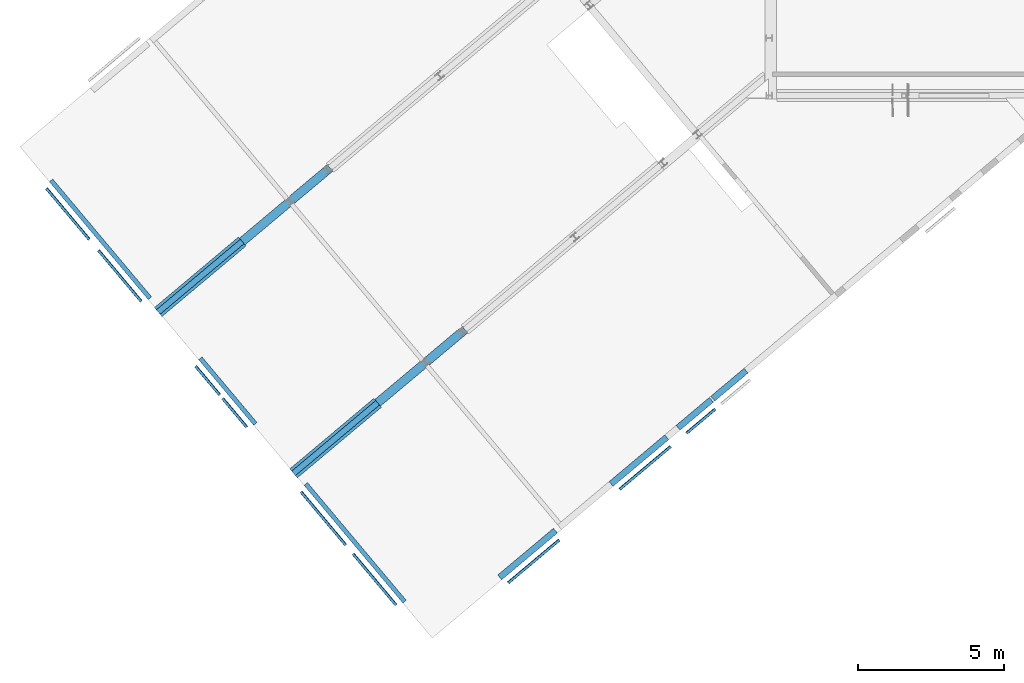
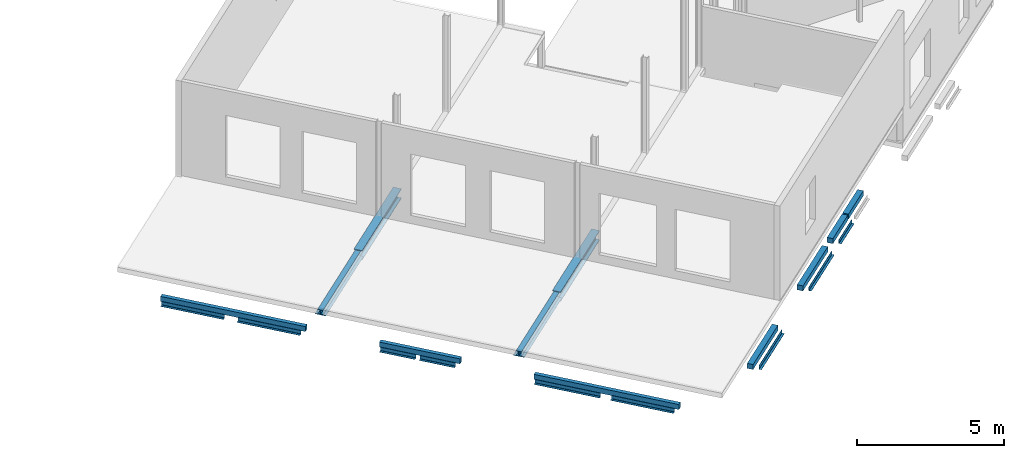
# One storey, part 4 of 16: 20 beams.
"""IFC2X3 building model written with IfcOpenShell, lengths in millimetres."""

from ifc_helpers import new_model, entity, si_unit, converted_unit, derived_unit, direction, frame, frame_2d, origin, origin_2d_with_axis, place, context, subcontext, project, spatial, polyline, circle_curve, parameter, trimmed, segment, composite_curve, rectangle, i_section, outline, extrude, source, transform, mapped, material, material_list, type_object, type_shapes, element, save


model = new_model("IFC2X3")

# Units and contexts
model_context = context("Model", 3, precision=0.01, world=origin(), true_north=direction((6.12303176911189e-17, 1.0)))
body_context = subcontext(model_context, "Body", "Model", "MODEL_VIEW")
ifc_project = project(units=[si_unit("LENGTHUNIT", "METRE", prefix="MILLI"), si_unit("AREAUNIT", "SQUARE_METRE"), si_unit("VOLUMEUNIT", "CUBIC_METRE"), converted_unit("PLANEANGLEUNIT", "DEGREE", entity("IfcRatioMeasure", 0.0174532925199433), si_unit("PLANEANGLEUNIT", "RADIAN"), dimensions=[0, 0, 0, 0, 0, 0, 0]), si_unit("MASSUNIT", "GRAM", prefix="KILO"), derived_unit("MASSDENSITYUNIT", [(si_unit("MASSUNIT", "GRAM", prefix="KILO"), 1), (si_unit("LENGTHUNIT", "METRE"), -3)]), derived_unit("MOMENTOFINERTIAUNIT", [(si_unit("LENGTHUNIT", "METRE"), 4)]), si_unit("TIMEUNIT", "SECOND"), si_unit("FREQUENCYUNIT", "HERTZ"), si_unit("THERMODYNAMICTEMPERATUREUNIT", "DEGREE_CELSIUS"), derived_unit("THERMALTRANSMITTANCEUNIT", [(si_unit("MASSUNIT", "GRAM", prefix="KILO"), 1), (si_unit("THERMODYNAMICTEMPERATUREUNIT", "KELVIN"), -1), (si_unit("TIMEUNIT", "SECOND"), -3)]), derived_unit("VOLUMETRICFLOWRATEUNIT", [(si_unit("LENGTHUNIT", "METRE"), 3), (si_unit("TIMEUNIT", "SECOND"), -1)]), si_unit("ELECTRICCURRENTUNIT", "AMPERE"), si_unit("ELECTRICVOLTAGEUNIT", "VOLT"), si_unit("POWERUNIT", "WATT"), si_unit("FORCEUNIT", "NEWTON", prefix="KILO"), si_unit("ILLUMINANCEUNIT", "LUX"), si_unit("LUMINOUSFLUXUNIT", "LUMEN"), si_unit("LUMINOUSINTENSITYUNIT", "CANDELA"), derived_unit("USERDEFINED", [(si_unit("MASSUNIT", "GRAM", prefix="KILO"), -1), (si_unit("LENGTHUNIT", "METRE"), -2), (si_unit("TIMEUNIT", "SECOND"), 3), (si_unit("LUMINOUSFLUXUNIT", "LUMEN"), 1)]), derived_unit("LINEARVELOCITYUNIT", [(si_unit("LENGTHUNIT", "METRE"), 1), (si_unit("TIMEUNIT", "SECOND"), -1)]), si_unit("PRESSUREUNIT", "PASCAL"), derived_unit("USERDEFINED", [(si_unit("LENGTHUNIT", "METRE"), -2), (si_unit("MASSUNIT", "GRAM", prefix="KILO"), 1), (si_unit("TIMEUNIT", "SECOND"), -2)]), derived_unit("LINEARFORCEUNIT", [(si_unit("MASSUNIT", "GRAM", prefix="KILO"), 1), (si_unit("LENGTHUNIT", "METRE"), 1), (si_unit("TIMEUNIT", "SECOND"), -2), (si_unit("LENGTHUNIT", "METRE"), -1)]), derived_unit("PLANARFORCEUNIT", [(si_unit("MASSUNIT", "GRAM", prefix="KILO"), 1), (si_unit("LENGTHUNIT", "METRE"), 1), (si_unit("TIMEUNIT", "SECOND"), -2), (si_unit("LENGTHUNIT", "METRE"), -2)])], contexts=[model_context])

# Site, building, storey
site_placement = place(None, origin())
site = spatial("IfcSite", under=ifc_project, at=site_placement, Name="Default", CompositionType="ELEMENT")
building_placement = place(site_placement, origin())
building = spatial("IfcBuilding", under=site, at=building_placement, CompositionType="ELEMENT")
storey_placement = place(building_placement, frame((0.0, 0.0, 3500.0)))
storey = spatial("IfcBuildingStorey", under=building, at=storey_placement, Name="01 eerste verdieping", CompositionType="ELEMENT", Elevation=3500.00000000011)

# Beams
ifc_material_1 = material(Name="00_Staal_generiek")
beam_type_1 = type_object("IfcBeamType", Name="BERSnl_28_SF_LIB_balk hoeklijn ongelijk_gen_ISR:balk gen l150x100x10", PredefinedType="BEAM")
beam_1_placement = place(storey_placement, frame((16927.5862290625, -14672.1145573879, 890.0), z_axis=(0.0, 0.0, 1.0), x_axis=(0.766044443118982, 0.642787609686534, 0.0)))
element("IfcBeam", 1, at=beam_1_placement, inside=storey, type_object=beam_type_1, material=ifc_material_1, Name="BERSnl_28_SF_LIB_balk hoeklijn ongelijk_gen_ISR:balk gen l150x100x10", ObjectType="BERSnl_28_SF_LIB_balk hoeklijn ongelijk_gen_ISR:balk gen l150x100x10", context=body_context, shape_type="SweptSolid", body=[
    extrude(outline(composite_curve([segment(polyline([(50.4444444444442, -62.222222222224), (54.4444444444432, -62.222222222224)]), True, "CONTINUOUS"), segment(polyline([(54.4444444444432, -62.222222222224), (54.4444444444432, 37.7777777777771)]), True, "CONTINUOUS"), segment(polyline([(54.4444444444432, 37.7777777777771), (-95.5555555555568, 37.7777777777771)]), True, "CONTINUOUS"), segment(polyline([(-95.5555555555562, 37.7777777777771), (-95.5555555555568, 33.7777777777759)]), True, "CONTINUOUS"), segment(trimmed(circle_curve(frame_2d((-89.5555555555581, 33.7777777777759), x_axis=(-1.0, 0.0)), 5.99999999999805), [parameter(0.0)], [parameter(90.0000000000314)], True, "PARAMETER"), True, "CONTINUOUS"), segment(polyline([(-89.5555555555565, 27.7777777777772), (32.4444444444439, 27.7777777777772)]), True, "CONTINUOUS"), segment(trimmed(circle_curve(frame_2d((32.4444444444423, 15.7777777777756), x_axis=(0.0, 1.0)), 12.000000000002), [parameter(270.000000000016)], [parameter(0.0)], True, "PARAMETER"), False, "CONTINUOUS"), segment(polyline([(44.4444444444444, 15.7777777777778), (44.4444444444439, -56.2222222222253)]), True, "CONTINUOUS"), segment(trimmed(circle_curve(frame_2d((50.444444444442, -56.2222222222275), x_axis=(-1.0, 0.0)), 5.99999999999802), [parameter(0.0)], [parameter(90.0000000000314)], True, "PARAMETER"), True, "CONTINUOUS")], self_intersect=False)), frame((-334.229920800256, -14.3777777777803, -95.5555555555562), z_axis=(1.0, 0.0, 0.0), x_axis=(0.0, 0.0, -1.0)), (0.0, 0.0, 1.0), 2286.00000000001),
])
beam_2_placement = place(storey_placement, frame((20683.5021336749, -11520.5269070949, 890.0), z_axis=(0.0, 0.0, 1.0), x_axis=(0.766044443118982, 0.642787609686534, 0.0)))
element("IfcBeam", 2, at=beam_2_placement, inside=storey, type_object=beam_type_1, material=ifc_material_1, Name="BERSnl_28_SF_LIB_balk hoeklijn ongelijk_gen_ISR:balk gen l150x100x10", ObjectType="BERSnl_28_SF_LIB_balk hoeklijn ongelijk_gen_ISR:balk gen l150x100x10", context=body_context, shape_type="SweptSolid", body=[
    extrude(outline(composite_curve([segment(polyline([(50.4444444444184, -62.2222222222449), (54.4444444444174, -62.2222222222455)]), True, "CONTINUOUS"), segment(polyline([(54.4444444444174, -62.2222222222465), (54.4444444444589, 37.7777777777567)]), True, "CONTINUOUS"), segment(polyline([(54.4444444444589, 37.7777777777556), (-95.5555555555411, 37.7777777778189)]), True, "CONTINUOUS"), segment(polyline([(-95.5555555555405, 37.7777777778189), (-95.5555555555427, 33.7777777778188)]), True, "CONTINUOUS"), segment(trimmed(circle_curve(frame_2d((-89.5555555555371, 33.7777777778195), x_axis=(-1.0, 0.0)), 6.00000000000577), [parameter(0.0)], [parameter(89.999999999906)], True, "PARAMETER"), True, "CONTINUOUS"), segment(polyline([(-89.555555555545, 27.7777777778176), (32.4444444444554, 27.777777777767)]), True, "CONTINUOUS"), segment(trimmed(circle_curve(frame_2d((32.4444444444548, 15.7777777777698), x_axis=(0.0, 1.0)), 11.9999999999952), [parameter(269.999999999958)], [parameter(0.0)], True, "PARAMETER"), False, "CONTINUOUS"), segment(polyline([(44.444444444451, 15.7777777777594), (44.4444444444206, -56.2222222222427)]), True, "CONTINUOUS"), segment(trimmed(circle_curve(frame_2d((50.444444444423, -56.222222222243), x_axis=(-1.0, 0.0)), 6.00000000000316), [parameter(0.0)], [parameter(89.9999999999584)], True, "PARAMETER"), True, "CONTINUOUS")], self_intersect=False)), frame((-267.229920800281, -14.3777777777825, -95.5555555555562), z_axis=(1.0, 0.0, 0.0), x_axis=(0.0, 0.0, -1.0)), (0.0, 0.0, 1.0), 2286.0),
])
beam_3_placement = place(storey_placement, frame((23035.2772813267, -9547.15324808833, 890.0), z_axis=(0.0, 0.0, 1.0), x_axis=(0.766044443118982, 0.642787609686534, 0.0)))
element("IfcBeam", 3, at=beam_3_placement, inside=storey, type_object=beam_type_1, material=ifc_material_1, Name="BERSnl_28_SF_LIB_balk hoeklijn ongelijk_gen_ISR:balk gen l150x100x10", ObjectType="BERSnl_28_SF_LIB_balk hoeklijn ongelijk_gen_ISR:balk gen l150x100x10", context=body_context, shape_type="SweptSolid", body=[
    extrude(outline(composite_curve([segment(polyline([(50.4444444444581, -62.2222222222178), (54.4444444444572, -62.2222222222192)]), True, "CONTINUOUS"), segment(polyline([(54.4444444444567, -62.222222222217), (54.4444444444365, 37.7777777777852)]), True, "CONTINUOUS"), segment(polyline([(54.4444444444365, 37.7777777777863), (-95.5555555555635, 37.7777777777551)]), True, "CONTINUOUS"), segment(polyline([(-95.5555555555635, 37.7777777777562), (-95.5555555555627, 33.7777777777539)]), True, "CONTINUOUS"), segment(trimmed(circle_curve(frame_2d((-89.555555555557, 33.7777777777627), x_axis=(-1.0, 0.0)), 6.00000000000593), [parameter(0.0)], [parameter(89.9999999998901)], True, "PARAMETER"), True, "CONTINUOUS"), segment(polyline([(-89.5555555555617, 27.7777777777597), (32.4444444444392, 27.7777777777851)]), True, "CONTINUOUS"), segment(trimmed(circle_curve(frame_2d((32.4444444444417, 15.7777777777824), x_axis=(0.0, 1.0)), 11.9999999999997), [parameter(269.999999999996)], [parameter(0.0)], True, "PARAMETER"), False, "CONTINUOUS"), segment(polyline([(44.4444444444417, 15.7777777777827), (44.4444444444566, -56.2222222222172)]), True, "CONTINUOUS"), segment(trimmed(circle_curve(frame_2d((50.4444444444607, -56.2222222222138), x_axis=(-1.0, 0.0)), 6.00000000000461), [parameter(0.0)], [parameter(89.999999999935)], True, "PARAMETER"), True, "CONTINUOUS")], self_intersect=False)), frame((-347.45415909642, -14.377777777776, -95.5555555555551), z_axis=(1.0, 0.0, 0.0), x_axis=(0.0, 0.0, -1.0)), (0.0, 0.0, 1.0), 1286.00000000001),
])
beam_4_placement = place(storey_placement, frame((12706.419373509, -15443.797925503, 890.0), z_axis=(0.0, 0.0, 1.0), x_axis=(-0.642787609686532, 0.766044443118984, 0.0)))
element("IfcBeam", 4, at=beam_4_placement, inside=storey, type_object=beam_type_1, material=ifc_material_1, Name="BERSnl_28_SF_LIB_balk hoeklijn ongelijk_gen_ISR:balk gen l150x100x10", ObjectType="BERSnl_28_SF_LIB_balk hoeklijn ongelijk_gen_ISR:balk gen l150x100x10", context=body_context, shape_type="SweptSolid", body=[
    extrude(outline(composite_curve([segment(polyline([(-95.5555555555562, -37.7777777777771), (54.4444444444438, -37.7777777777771)]), True, "CONTINUOUS"), segment(polyline([(54.4444444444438, -37.7777777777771), (54.4444444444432, 62.2222222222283)]), True, "CONTINUOUS"), segment(polyline([(54.4444444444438, 62.2222222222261), (50.4444444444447, 62.2222222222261)]), True, "CONTINUOUS"), segment(trimmed(circle_curve(frame_2d((50.4444444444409, 56.2222222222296), x_axis=(0.0, 1.0)), 5.9999999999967), [parameter(0.0)], [parameter(90.0000000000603)], True, "PARAMETER"), True, "CONTINUOUS"), segment(polyline([(44.4444444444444, 56.2222222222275), (44.4444444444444, -15.7777777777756)]), True, "CONTINUOUS"), segment(trimmed(circle_curve(frame_2d((32.4444444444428, -15.7777777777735), x_axis=(1.0, 0.0)), 12.000000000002), [parameter(270.000000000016)], [parameter(0.0)], True, "PARAMETER"), False, "CONTINUOUS"), segment(polyline([(32.4444444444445, -27.7777777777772), (-89.5555555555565, -27.7777777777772)]), True, "CONTINUOUS"), segment(trimmed(circle_curve(frame_2d((-89.5555555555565, -33.7777777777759), x_axis=(0.0, 1.0)), 5.99999999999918), [parameter(0.0)], [parameter(90.0000000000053)], True, "PARAMETER"), True, "CONTINUOUS"), segment(polyline([(-95.5555555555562, -33.7777777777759), (-95.5555555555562, -37.7777777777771)]), True, "CONTINUOUS")], self_intersect=False)), frame((-267.835481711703, 14.3777777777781, -95.5555555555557), z_axis=(1.0, 0.0, 0.0), x_axis=(0.0, 0.0, -1.0)), (0.0, 0.0, 1.0), 2286.0),
])
beam_5_placement = place(storey_placement, frame((10945.1813229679, -13344.836151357, 890.0), z_axis=(0.0, 0.0, 1.0), x_axis=(-0.642787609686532, 0.766044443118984, 0.0)))
element("IfcBeam", 5, at=beam_5_placement, inside=storey, type_object=beam_type_1, material=ifc_material_1, Name="BERSnl_28_SF_LIB_balk hoeklijn ongelijk_gen_ISR:balk gen l150x100x10", ObjectType="BERSnl_28_SF_LIB_balk hoeklijn ongelijk_gen_ISR:balk gen l150x100x10", context=body_context, shape_type="SweptSolid", body=[
    extrude(outline(composite_curve([segment(polyline([(-95.5555555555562, -37.7777777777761), (54.4444444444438, -37.7777777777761)]), True, "CONTINUOUS"), segment(polyline([(54.4444444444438, -37.7777777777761), (54.4444444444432, 62.2222222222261)]), True, "CONTINUOUS"), segment(polyline([(54.4444444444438, 62.2222222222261), (50.4444444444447, 62.2222222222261)]), True, "CONTINUOUS"), segment(trimmed(circle_curve(frame_2d((50.4444444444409, 56.2222222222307), x_axis=(0.0, 1.0)), 5.9999999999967), [parameter(0.0)], [parameter(90.0000000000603)], True, "PARAMETER"), True, "CONTINUOUS"), segment(polyline([(44.4444444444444, 56.2222222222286), (44.4444444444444, -15.7777777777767)]), True, "CONTINUOUS"), segment(trimmed(circle_curve(frame_2d((32.4444444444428, -15.7777777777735), x_axis=(1.0, 0.0)), 12.000000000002), [parameter(270.000000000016)], [parameter(0.0)], True, "PARAMETER"), False, "CONTINUOUS"), segment(polyline([(32.4444444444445, -27.7777777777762), (-89.5555555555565, -27.7777777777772)]), True, "CONTINUOUS"), segment(trimmed(circle_curve(frame_2d((-89.5555555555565, -33.7777777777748), x_axis=(0.0, 1.0)), 5.99999999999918), [parameter(0.0)], [parameter(90.0000000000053)], True, "PARAMETER"), True, "CONTINUOUS"), segment(polyline([(-95.5555555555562, -33.7777777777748), (-95.5555555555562, -37.7777777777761)]), True, "CONTINUOUS")], self_intersect=False)), frame((-333.835481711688, 14.3777777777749, -95.5555555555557), z_axis=(1.0, 0.0, 0.0), x_axis=(0.0, 0.0, -1.0)), (0.0, 0.0, 1.0), 2381.99999999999),
])
beam_6_placement = place(storey_placement, frame((7439.53332428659, -9166.96755455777, 890.0), z_axis=(0.0, 0.0, 1.0), x_axis=(-0.642787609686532, 0.766044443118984, 0.0)))
element("IfcBeam", 6, at=beam_6_placement, inside=storey, type_object=beam_type_1, material=ifc_material_1, Name="BERSnl_28_SF_LIB_balk hoeklijn ongelijk_gen_ISR:balk gen l150x100x10", ObjectType="BERSnl_28_SF_LIB_balk hoeklijn ongelijk_gen_ISR:balk gen l150x100x10", context=body_context, shape_type="SweptSolid", body=[
    extrude(outline(composite_curve([segment(polyline([(-95.5555555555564, -37.7777777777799), (54.4444444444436, -37.7777777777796)]), True, "CONTINUOUS"), segment(polyline([(54.4444444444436, -37.7777777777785), (54.4444444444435, 62.2222222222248)]), True, "CONTINUOUS"), segment(polyline([(54.4444444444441, 62.2222222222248), (50.444444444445, 62.2222222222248)]), True, "CONTINUOUS"), segment(trimmed(circle_curve(frame_2d((50.4444444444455, 56.222222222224), x_axis=(0.0, 1.0)), 6.00000000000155), [parameter(0.0)], [parameter(89.9999999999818)], True, "PARAMETER"), True, "CONTINUOUS"), segment(polyline([(44.4444444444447, 56.2222222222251), (44.4444444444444, -15.7777777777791)]), True, "CONTINUOUS"), segment(trimmed(circle_curve(frame_2d((32.4444444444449, -15.777777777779), x_axis=(1.0, 0.0)), 11.9999999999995), [parameter(269.999999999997)], [parameter(0.0)], True, "PARAMETER"), False, "CONTINUOUS"), segment(polyline([(32.4444444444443, -27.7777777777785), (-89.5555555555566, -27.777777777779)]), True, "CONTINUOUS"), segment(trimmed(circle_curve(frame_2d((-89.555555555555, -33.7777777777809), x_axis=(0.0, 1.0)), 6.00000000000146), [parameter(0.0)], [parameter(89.9999999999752)], True, "PARAMETER"), True, "CONTINUOUS"), segment(polyline([(-95.5555555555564, -33.7777777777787), (-95.5555555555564, -37.7777777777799)]), True, "CONTINUOUS")], self_intersect=False)), frame((-522.655601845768, 14.3777777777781, -95.5555555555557), z_axis=(1.0, 0.0, 0.0), x_axis=(0.0, 0.0, -1.0)), (0.0, 0.0, 1.0), 1286.0),
])
beam_7_placement = place(storey_placement, frame((6480.8887671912, -8024.49945961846, 890.0), z_axis=(0.0, 0.0, 1.0), x_axis=(-0.642787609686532, 0.766044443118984, 0.0)))
element("IfcBeam", 7, at=beam_7_placement, inside=storey, type_object=beam_type_1, material=ifc_material_1, Name="BERSnl_28_SF_LIB_balk hoeklijn ongelijk_gen_ISR:balk gen l150x100x10", ObjectType="BERSnl_28_SF_LIB_balk hoeklijn ongelijk_gen_ISR:balk gen l150x100x10", context=body_context, shape_type="SweptSolid", body=[
    extrude(outline(composite_curve([segment(polyline([(-95.5555555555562, -37.7777777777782), (54.4444444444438, -37.7777777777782)]), True, "CONTINUOUS"), segment(polyline([(54.4444444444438, -37.7777777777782), (54.4444444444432, 62.222222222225)]), True, "CONTINUOUS"), segment(polyline([(54.4444444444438, 62.222222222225), (50.4444444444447, 62.222222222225)]), True, "CONTINUOUS"), segment(trimmed(circle_curve(frame_2d((50.4444444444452, 56.2222222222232), x_axis=(0.0, 1.0)), 6.00000000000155), [parameter(0.0)], [parameter(89.9999999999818)], True, "PARAMETER"), True, "CONTINUOUS"), segment(polyline([(44.4444444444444, 56.2222222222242), (44.4444444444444, -15.7777777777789)]), True, "CONTINUOUS"), segment(trimmed(circle_curve(frame_2d((32.444444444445, -15.7777777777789), x_axis=(1.0, 0.0)), 11.9999999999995), [parameter(269.999999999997)], [parameter(0.0)], True, "PARAMETER"), False, "CONTINUOUS"), segment(polyline([(32.4444444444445, -27.7777777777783), (-89.5555555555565, -27.7777777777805)]), True, "CONTINUOUS"), segment(trimmed(circle_curve(frame_2d((-89.5555555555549, -33.7777777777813), x_axis=(0.0, 1.0)), 6.00000000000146), [parameter(0.0)], [parameter(89.9999999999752)], True, "PARAMETER"), True, "CONTINUOUS"), segment(polyline([(-95.5555555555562, -33.7777777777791), (-95.5555555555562, -37.7777777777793)]), True, "CONTINUOUS")], self_intersect=False)), frame((-574.04178080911, 14.3777777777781, -95.5555555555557), z_axis=(1.0, 0.0, 0.0), x_axis=(0.0, 0.0, -1.0)), (0.0, 0.0, 1.0), 1285.72116295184),
])
beam_8_placement = place(storey_placement, frame((4026.85827991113, -5099.89981006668, 890.0), z_axis=(0.0, 0.0, 1.0), x_axis=(-0.642787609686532, 0.766044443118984, 0.0)))
element("IfcBeam", 8, at=beam_8_placement, inside=storey, type_object=beam_type_1, material=ifc_material_1, Name="BERSnl_28_SF_LIB_balk hoeklijn ongelijk_gen_ISR:balk gen l150x100x10", ObjectType="BERSnl_28_SF_LIB_balk hoeklijn ongelijk_gen_ISR:balk gen l150x100x10", context=body_context, shape_type="SweptSolid", body=[
    extrude(outline(composite_curve([segment(polyline([(-95.5555555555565, -37.7777777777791), (54.4444444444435, -37.7777777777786)]), True, "CONTINUOUS"), segment(polyline([(54.4444444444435, -37.7777777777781), (54.4444444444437, 62.2222222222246)]), True, "CONTINUOUS"), segment(polyline([(54.4444444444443, 62.2222222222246), (50.4444444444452, 62.2222222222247)]), True, "CONTINUOUS"), segment(trimmed(circle_curve(frame_2d((50.4444444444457, 56.2222222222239), x_axis=(0.0, 1.0)), 6.00000000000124), [parameter(0.0)], [parameter(89.9999999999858)], True, "PARAMETER"), True, "CONTINUOUS"), segment(polyline([(44.4444444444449, 56.2222222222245), (44.4444444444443, -15.7777777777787)]), True, "CONTINUOUS"), segment(trimmed(circle_curve(frame_2d((32.4444444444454, -15.7777777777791), x_axis=(1.0, 0.0)), 11.9999999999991), [parameter(269.999999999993)], [parameter(0.0)], True, "PARAMETER"), False, "CONTINUOUS"), segment(polyline([(32.4444444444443, -27.7777777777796), (-89.5555555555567, -27.7777777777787)]), True, "CONTINUOUS"), segment(trimmed(circle_curve(frame_2d((-89.5555555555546, -33.7777777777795), x_axis=(0.0, 1.0)), 6.00000000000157), [parameter(0.0)], [parameter(89.9999999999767)], True, "PARAMETER"), True, "CONTINUOUS"), segment(polyline([(-95.5555555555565, -33.7777777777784), (-95.5555555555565, -37.7777777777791)]), True, "CONTINUOUS")], self_intersect=False)), frame((-222.835481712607, 14.3777777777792, -95.5555555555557), z_axis=(1.0, 0.0, 0.0), x_axis=(0.0, 0.0, -1.0)), (0.0, 0.0, 1.0), 2286.0),
])
beam_9_placement = place(storey_placement, frame((2265.62022937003, -3000.93803592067, 890.0), z_axis=(0.0, 0.0, 1.0), x_axis=(-0.642787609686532, 0.766044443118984, 0.0)))
element("IfcBeam", 9, at=beam_9_placement, inside=storey, type_object=beam_type_1, material=ifc_material_1, Name="BERSnl_28_SF_LIB_balk hoeklijn ongelijk_gen_ISR:balk gen l150x100x10", ObjectType="BERSnl_28_SF_LIB_balk hoeklijn ongelijk_gen_ISR:balk gen l150x100x10", context=body_context, shape_type="SweptSolid", body=[
    extrude(outline(composite_curve([segment(polyline([(-95.5555555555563, -37.7777777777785), (54.4444444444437, -37.7777777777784)]), True, "CONTINUOUS"), segment(polyline([(54.4444444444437, -37.7777777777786), (54.4444444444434, 62.2222222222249)]), True, "CONTINUOUS"), segment(polyline([(54.444444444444, 62.2222222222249), (50.4444444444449, 62.2222222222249)]), True, "CONTINUOUS"), segment(trimmed(circle_curve(frame_2d((50.4444444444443, 56.2222222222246), x_axis=(0.0, 1.0)), 5.99999999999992), [parameter(0.0)], [parameter(90.0000000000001)], True, "PARAMETER"), True, "CONTINUOUS"), segment(polyline([(44.4444444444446, 56.2222222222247), (44.4444444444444, -15.7777777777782)]), True, "CONTINUOUS"), segment(trimmed(circle_curve(frame_2d((32.4444444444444, -15.7777777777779), x_axis=(1.0, 0.0)), 12.0000000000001), [parameter(270.0)], [parameter(0.0)], True, "PARAMETER"), False, "CONTINUOUS"), segment(polyline([(32.4444444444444, -27.7777777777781), (-89.5555555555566, -27.7777777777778)]), True, "CONTINUOUS"), segment(trimmed(circle_curve(frame_2d((-89.5555555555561, -33.7777777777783), x_axis=(0.0, 1.0)), 5.99999999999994), [parameter(0.0)], [parameter(90.0000000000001)], True, "PARAMETER"), True, "CONTINUOUS"), segment(polyline([(-95.5555555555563, -33.7777777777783), (-95.5555555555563, -37.777777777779)]), True, "CONTINUOUS")], self_intersect=False)), frame((-194.835481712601, 14.3777777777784, -95.5555555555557), z_axis=(1.0, 0.0, 0.0), x_axis=(0.0, 0.0, -1.0)), (0.0, 0.0, 1.0), 2286.0),
])
ifc_material_2 = material(Name="f2_beton prefab")
beam_type_2 = type_object("IfcBeamType", Name="BERSnl_28_SF_LIB_balk vierkant prefab_gen_ISR:balk vierkant gen 150x210", PredefinedType="JOIST")
beam_10_placement = place(storey_placement, frame((12891.6759078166, -15247.0217906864, 960.0), z_axis=(0.0, 0.0, 1.0), x_axis=(-0.642787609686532, 0.766044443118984, 0.0)))
element("IfcBeam", 10, at=beam_10_placement, inside=storey, type_object=beam_type_2, material=ifc_material_2, Name="BERSnl_28_SF_LIB_balk vierkant prefab_gen_ISR:balk vierkant gen 150x210", ObjectType="BERSnl_28_SF_LIB_balk vierkant prefab_gen_ISR:balk vierkant gen 150x210", context=body_context, shape_type="SweptSolid", body=[
    extrude(rectangle(XDim=210.000000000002, YDim=149.999999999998, at=frame_2d((0.0, 2.35900188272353e-12), x_axis=(1.0, 0.0))), frame((-399.494141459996, 0.0, -105.0), z_axis=(1.0, 0.0, 0.0), x_axis=(0.0, 0.0, -1.0)), (0.0, 0.0, 1.0), 5256.0),
])
beam_11_placement = place(storey_placement, frame((9386.02790913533, -11069.1531938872, 960.0), z_axis=(0.0, 0.0, 1.0), x_axis=(-0.642787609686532, 0.766044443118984, 0.0)))
element("IfcBeam", 11, at=beam_11_placement, inside=storey, type_object=beam_type_2, material=ifc_material_2, Name="BERSnl_28_SF_LIB_balk vierkant prefab_gen_ISR:balk vierkant gen 150x210", ObjectType="BERSnl_28_SF_LIB_balk vierkant prefab_gen_ISR:balk vierkant gen 150x210", context=body_context, shape_type="SweptSolid", body=[
    extrude(rectangle(XDim=210.000000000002, YDim=149.999999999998, at=origin_2d_with_axis()), frame((2085.68573840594, 0.0, -105.0), z_axis=(1.0, 0.0, 0.0), x_axis=(0.0, 0.0, -1.0)), (0.0, 0.0, 1.0), 2925.72116295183),
])
beam_12_placement = place(storey_placement, frame((4212.11481421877, -4903.12367525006, 960.0), z_axis=(0.0, 0.0, 1.0), x_axis=(-0.642787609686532, 0.766044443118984, 0.0)))
element("IfcBeam", 12, at=beam_12_placement, inside=storey, type_object=beam_type_2, material=ifc_material_2, Name="BERSnl_28_SF_LIB_balk vierkant prefab_gen_ISR:balk vierkant gen 150x210", ObjectType="BERSnl_28_SF_LIB_balk vierkant prefab_gen_ISR:balk vierkant gen 150x210", context=body_context, shape_type="SweptSolid", body=[
    extrude(rectangle(XDim=210.000000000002, YDim=149.999999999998, at=frame_2d((0.0, -4.12114786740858e-13), x_axis=(1.0, 0.0))), frame((-354.494141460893, 0.0, -105.0), z_axis=(1.0, 0.0, 0.0), x_axis=(0.0, 0.0, -1.0)), (0.0, 0.0, 1.0), 5254.0),
])
beam_type_3 = type_object("IfcBeamType", Name="BERSnl_28_SF_LIB_balk vierkant prefab_gen_ISR:balk vierkant gen 214x210", PredefinedType="JOIST")
beam_13_placement = place(storey_placement, frame((16527.7524493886, -14616.8614760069, 960.0), z_axis=(0.0, 0.0, 1.0), x_axis=(0.766044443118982, 0.642787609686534, 0.0)))
element("IfcBeam", 13, at=beam_13_placement, inside=storey, type_object=beam_type_3, material=ifc_material_2, Name="BERSnl_28_SF_LIB_balk vierkant prefab_gen_ISR:balk vierkant gen 214x210", ObjectType="BERSnl_28_SF_LIB_balk vierkant prefab_gen_ISR:balk vierkant gen 214x210", context=body_context, shape_type="SweptSolid", body=[
    extrude(rectangle(XDim=210.000000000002, YDim=214.0, at=frame_2d((0.0, 1.52056145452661e-12), x_axis=(1.0, 0.0))), frame((-163.455471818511, 0.0, -105.0), z_axis=(1.0, 0.0, 0.0), x_axis=(0.0, 0.0, -1.0)), (0.0, 0.0, 1.0), 2486.0),
])
beam_14_placement = place(storey_placement, frame((20283.6683540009, -11465.2738257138, 960.0), z_axis=(0.0, 0.0, 1.0), x_axis=(0.766044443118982, 0.642787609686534, 0.0)))
element("IfcBeam", 14, at=beam_14_placement, inside=storey, type_object=beam_type_3, material=ifc_material_2, Name="BERSnl_28_SF_LIB_balk vierkant prefab_gen_ISR:balk vierkant gen 214x210", ObjectType="BERSnl_28_SF_LIB_balk vierkant prefab_gen_ISR:balk vierkant gen 214x210", context=body_context, shape_type="SweptSolid", body=[
    extrude(rectangle(XDim=210.000000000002, YDim=213.999999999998, at=frame_2d((0.0, -2.21689333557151e-12), x_axis=(1.0, 0.0))), frame((-96.4554718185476, 0.0, -105.0), z_axis=(1.0, 0.0, 0.0), x_axis=(0.0, 0.0, -1.0)), (0.0, 0.0, 1.0), 2486.0),
])
beam_15_placement = place(storey_placement, frame((22635.4247943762, -9491.91586397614, 960.0), z_axis=(0.0, 0.0, 1.0), x_axis=(0.766044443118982, 0.642787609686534, 0.0)))
element("IfcBeam", 15, at=beam_15_placement, inside=storey, type_object=beam_type_3, material=ifc_material_2, Name="BERSnl_28_SF_LIB_balk vierkant prefab_gen_ISR:balk vierkant gen 214x210", ObjectType="BERSnl_28_SF_LIB_balk vierkant prefab_gen_ISR:balk vierkant gen 214x210", context=body_context, shape_type="SweptSolid", body=[
    extrude(rectangle(XDim=210.000000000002, YDim=213.999999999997, at=frame_2d((0.0, -2.23110419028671e-12), x_axis=(1.0, 0.0))), frame((-176.655289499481, 0.0, -105.0), z_axis=(1.0, 0.0, 0.0), x_axis=(0.0, 0.0, -1.0)), (0.0, 0.0, 1.0), 1486.00000000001),
])
beam_16_placement = place(storey_placement, frame((23815.1332367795, -8502.02294505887, 960.0), z_axis=(0.0, 0.0, 1.0), x_axis=(0.766044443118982, 0.642787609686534, 0.0)))
element("IfcBeam", 16, at=beam_16_placement, inside=storey, type_object=beam_type_3, material=ifc_material_2, Name="BERSnl_28_SF_LIB_balk vierkant prefab_gen_ISR:balk vierkant gen 214x210", ObjectType="BERSnl_28_SF_LIB_balk vierkant prefab_gen_ISR:balk vierkant gen 214x210", context=body_context, shape_type="SweptSolid", body=[
    extrude(rectangle(XDim=210.000000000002, YDim=213.999999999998, at=frame_2d((0.0, -2.63611354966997e-12), x_axis=(1.0, 0.0))), frame((-165.136064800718, 0.0, -105.0), z_axis=(1.0, 0.0, 0.0), x_axis=(0.0, 0.0, -1.0)), (0.0, 0.0, 1.0), 1483.13437468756),
])
beam_type_4 = type_object("IfcBeamType", Name="BERSnl_28_SF_LIB_balk heb_gen_ISR:balk gen heb400", PredefinedType="BEAM")
beam_17_placement = place(storey_placement, frame((12621.2712607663, -8421.84048483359, 1825.0), z_axis=(0.0, 0.0, 1.0), x_axis=(0.766044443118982, 0.642787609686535, 0.0)))
element("IfcBeam", 17, at=beam_17_placement, inside=storey, type_object=beam_type_4, material=ifc_material_1, Name="BERSnl_28_SF_LIB_balk heb_gen_ISR:balk gen heb400", ObjectType="BERSnl_28_SF_LIB_balk heb_gen_ISR:balk gen heb400", context=body_context, shape_type="SweptSolid", body=[
    extrude(i_section(OverallWidth=300.000000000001, OverallDepth=400.0, WebThickness=13.4999999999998, FlangeThickness=24.000000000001, FilletRadius=27.0000000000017, at=frame_2d((1.09423581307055e-12, -1.09423581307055e-12), x_axis=(0.0, 1.0))), frame((-514.654878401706, 0.0, -200.0), z_axis=(1.0, 0.0, 0.0), x_axis=(0.0, 0.0, -1.0)), (0.0, 0.0, 1.0), 3895.95843595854),
])
beam_18_placement = place(storey_placement, frame((7993.20047102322, -2906.32049437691, 1825.0), z_axis=(0.0, 0.0, 1.0), x_axis=(0.766044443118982, 0.642787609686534, 0.0)))
element("IfcBeam", 18, at=beam_18_placement, inside=storey, type_object=beam_type_4, material=ifc_material_1, Name="BERSnl_28_SF_LIB_balk heb_gen_ISR:balk gen heb400", ObjectType="BERSnl_28_SF_LIB_balk heb_gen_ISR:balk gen heb400", context=body_context, shape_type="SweptSolid", body=[
    extrude(i_section(OverallWidth=300.0, OverallDepth=400.0, WebThickness=13.5000000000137, FlangeThickness=24.000000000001, FilletRadius=27.000000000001, at=frame_2d((1.08002495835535e-12, -2.1316282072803e-13), x_axis=(0.0, 1.0))), frame((-514.654878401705, 0.0, -200.0), z_axis=(1.0, 0.0, 0.0), x_axis=(0.0, 0.0, -1.0)), (0.0, 0.0, 1.0), 3920.00446605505),
])
ifc_material_3 = material(Name="<Unnamed>")
ifc_material_list = material_list([ifc_material_3, ifc_material_1])
beam_type_5 = type_object("IfcBeamType", Name="BERSnl_28_SF_LIB_balk sfb_gen_ISR:balk gen heb200 400x15", PredefinedType="T_BEAM", material=ifc_material_list)
shared_shape = source(origin(), body_context, "Body", "SweptSolid", [
    extrude(rectangle(XDim=15.0, YDim=400.0, at=origin_2d_with_axis()), frame((-1350.88302186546, 0.0, -60.5000000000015), z_axis=(1.0, 0.0, 0.0), x_axis=(0.0, 0.0, -1.0)), (0.0, 0.0, 1.0), 3752.44384272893),
    extrude(outline(composite_curve([segment(polyline([(85.0, -100.0), (100.0, -100.0)]), True, "CONTINUOUS"), segment(polyline([(100.0, -100.0), (100.0, 100.0)]), True, "CONTINUOUS"), segment(polyline([(100.0, 100.0), (85.0, 100.0)]), True, "CONTINUOUS"), segment(polyline([(85.0, 100.0), (85.0, 22.4999999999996)]), True, "CONTINUOUS"), segment(trimmed(circle_curve(frame_2d((67.0, 22.4999999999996), x_axis=(1.0, 0.0)), 18.0), [parameter(270.0)], [parameter(0.0)], True, "PARAMETER"), False, "CONTINUOUS"), segment(polyline([(67.0, 4.49999999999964), (-67.0, 4.49999999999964)]), True, "CONTINUOUS"), segment(trimmed(circle_curve(frame_2d((-67.0, 22.4999999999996), x_axis=(0.0, -1.0)), 18.0), [parameter(270.0)], [parameter(0.0)], True, "PARAMETER"), False, "CONTINUOUS"), segment(polyline([(-85.0, 22.4999999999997), (-85.0, 100.0)]), True, "CONTINUOUS"), segment(polyline([(-85.0, 100.0), (-100.0, 100.0)]), True, "CONTINUOUS"), segment(polyline([(-100.0, 100.0), (-100.0, -100.0)]), True, "CONTINUOUS"), segment(polyline([(-100.0, -100.0), (-85.0, -100.0)]), True, "CONTINUOUS"), segment(polyline([(-85.0, -100.0), (-85.0, -22.5000000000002)]), True, "CONTINUOUS"), segment(trimmed(circle_curve(frame_2d((-67.0, -22.5000000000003), x_axis=(-1.0, 0.0)), 18.0), [parameter(270.0)], [parameter(0.0)], True, "PARAMETER"), False, "CONTINUOUS"), segment(polyline([(-67.0, -4.50000000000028), (67.0, -4.50000000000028)]), True, "CONTINUOUS"), segment(trimmed(circle_curve(frame_2d((67.0, -22.5000000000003), x_axis=(0.0, 1.0)), 18.0), [parameter(270.0)], [parameter(0.0)], True, "PARAMETER"), False, "CONTINUOUS"), segment(polyline([(85.0, -22.5000000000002), (85.0, -100.0)]), True, "CONTINUOUS")], self_intersect=False)), frame((-1350.88602425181, 0.0, 47.0), z_axis=(1.0, 0.0, 0.0), x_axis=(0.0, 0.0, -1.0)), (0.0, 0.0, 1.0), 3752.44684511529),
])
type_shapes(beam_type_5, [shared_shape])
for number, where, z_axis, x_axis in (
    (19, (10387.3204294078, -10296.3478034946, 1653.0), (0.0, 0.0, 1.0), (0.766044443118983, 0.642787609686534, 0.0)),
    (20, (5759.24963966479, -4780.82781303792, 1653.0), (0.0, 0.0, 1.0), (0.766044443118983, 0.642787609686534, 0.0)),
):
    element("IfcBeam", number, at=place(storey_placement, frame(where, z_axis=z_axis, x_axis=x_axis)), inside=storey, type_object=beam_type_5, Name="BERSnl_28_SF_LIB_balk sfb_gen_ISR:balk gen heb200 400x15", ObjectType="BERSnl_28_SF_LIB_balk sfb_gen_ISR:balk gen heb200 400x15", context=body_context, shape_type="MappedRepresentation", body=[
        mapped(shared_shape, transform((0.0, 0.0, 0.0), scale=1.0)),
    ])

save(model, "model.ifc")
